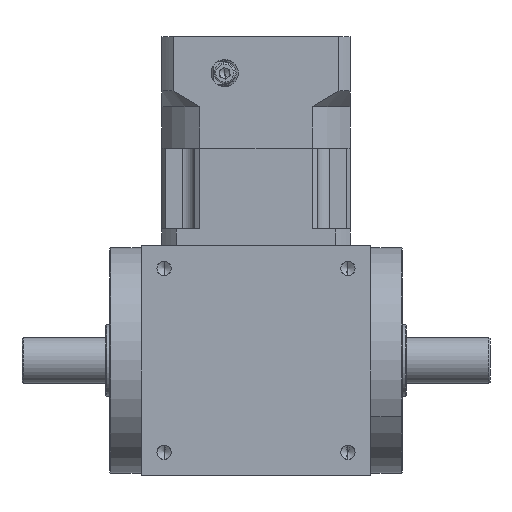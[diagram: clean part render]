
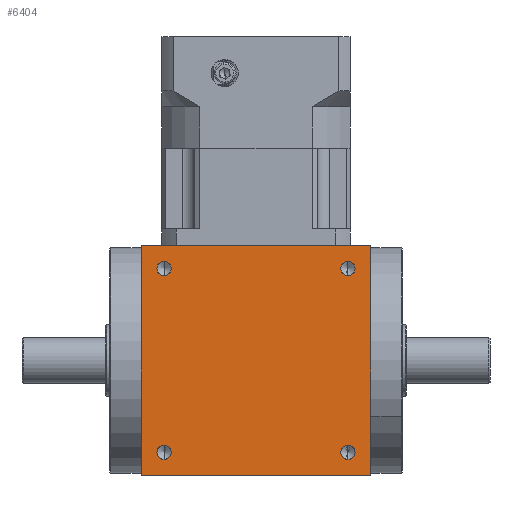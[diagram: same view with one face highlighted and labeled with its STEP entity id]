
A CAD part, front view. The second image highlights one B-rep face of the part: STEP entity #6404.
In plain terms, the highlighted planar face has unit normal (0, -1, 0).
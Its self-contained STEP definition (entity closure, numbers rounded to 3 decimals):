
#184 = VECTOR ( 'NONE', #20105, 1000. ) ;
#1017 = CARTESIAN_POINT ( 'NONE',  ( 59.28, -41.559, 40.6 ) ) ;
#1587 = LINE ( 'NONE', #10716, #184 ) ;
#1855 = EDGE_LOOP ( 'NONE', ( #6110, #11733 ) ) ;
#2417 = EDGE_CURVE ( 'NONE', #19862, #25311, #21625, .T. ) ;
#3126 = VERTEX_POINT ( 'NONE', #16223 ) ;
#3274 = LINE ( 'NONE', #22249, #6985 ) ;
#3735 = DIRECTION ( 'NONE',  ( 0., -1., 0. ) ) ;
#3842 = FACE_BOUND ( 'NONE', #18939, .T. ) ;
#3854 = AXIS2_PLACEMENT_3D ( 'NONE', #9052, #18609, #6689 ) ;
#3895 = AXIS2_PLACEMENT_3D ( 'NONE', #7970, #5754, #15328 ) ;
#3952 = CARTESIAN_POINT ( 'NONE',  ( 70.28, -41.559, -55. ) ) ;
#4013 = EDGE_LOOP ( 'NONE', ( #11917, #12935 ) ) ;
#5163 = CIRCLE ( 'NONE', #13689, 3.4 ) ;
#5366 = EDGE_LOOP ( 'NONE', ( #11863, #23521, #26902, #30319 ) ) ;
#5754 = DIRECTION ( 'NONE',  ( 0., -1., 0. ) ) ;
#5916 = EDGE_CURVE ( 'NONE', #27477, #18659, #3274, .T. ) ;
#6110 = ORIENTED_EDGE ( 'NONE', *, *, #10863, .F. ) ;
#6195 = DIRECTION ( 'NONE',  ( 0., 1., 0. ) ) ;
#6224 = ORIENTED_EDGE ( 'NONE', *, *, #27255, .F. ) ;
#6404 = ADVANCED_FACE ( 'NONE', ( #8411, #17970, #8263, #3842, #20622 ), #23139, .F. ) ;
#6557 = CARTESIAN_POINT ( 'NONE',  ( -28.72, -41.559, 44. ) ) ;
#6689 = DIRECTION ( 'NONE',  ( 0., 0., -1. ) ) ;
#6985 = VECTOR ( 'NONE', #26966, 1000. ) ;
#7970 = CARTESIAN_POINT ( 'NONE',  ( 59.28, -41.559, -44. ) ) ;
#8171 = DIRECTION ( 'NONE',  ( 1., 0., 0. ) ) ;
#8263 = FACE_BOUND ( 'NONE', #28560, .T. ) ;
#8411 = FACE_BOUND ( 'NONE', #1855, .T. ) ;
#9052 = CARTESIAN_POINT ( 'NONE',  ( -28.72, -41.559, -44. ) ) ;
#9403 = ORIENTED_EDGE ( 'NONE', *, *, #17396, .F. ) ;
#10425 = AXIS2_PLACEMENT_3D ( 'NONE', #6557, #21133, #18019 ) ;
#10581 = AXIS2_PLACEMENT_3D ( 'NONE', #17312, #28947, #26893 ) ;
#10716 = CARTESIAN_POINT ( 'NONE',  ( 70.28, -41.559, 55. ) ) ;
#10717 = CARTESIAN_POINT ( 'NONE',  ( -39.72, -41.559, -55. ) ) ;
#10863 = EDGE_CURVE ( 'NONE', #25311, #19862, #13396, .T. ) ;
#11349 = CARTESIAN_POINT ( 'NONE',  ( -39.72, -41.559, 55. ) ) ;
#11733 = ORIENTED_EDGE ( 'NONE', *, *, #2417, .F. ) ;
#11755 = CARTESIAN_POINT ( 'NONE',  ( -28.72, -41.559, -47.4 ) ) ;
#11863 = ORIENTED_EDGE ( 'NONE', *, *, #25176, .T. ) ;
#11917 = ORIENTED_EDGE ( 'NONE', *, *, #14281, .F. ) ;
#12285 = VECTOR ( 'NONE', #8171, 1000. ) ;
#12637 = CARTESIAN_POINT ( 'NONE',  ( 59.28, -41.559, 44. ) ) ;
#12927 = CARTESIAN_POINT ( 'NONE',  ( 59.28, -41.559, -40.6 ) ) ;
#12935 = ORIENTED_EDGE ( 'NONE', *, *, #14144, .F. ) ;
#12938 = AXIS2_PLACEMENT_3D ( 'NONE', #22583, #17869, #22425 ) ;
#13120 = EDGE_CURVE ( 'NONE', #15392, #24175, #23950, .T. ) ;
#13396 = CIRCLE ( 'NONE', #3854, 3.4 ) ;
#13498 = CARTESIAN_POINT ( 'NONE',  ( -39.72, -41.559, -55. ) ) ;
#13575 = DIRECTION ( 'NONE',  ( 1., 0., 0. ) ) ;
#13612 = CARTESIAN_POINT ( 'NONE',  ( -28.72, -41.559, 47.4 ) ) ;
#13689 = AXIS2_PLACEMENT_3D ( 'NONE', #25231, #3735, #25539 ) ;
#14144 = EDGE_CURVE ( 'NONE', #23397, #3126, #27975, .T. ) ;
#14162 = CIRCLE ( 'NONE', #23185, 3.4 ) ;
#14281 = EDGE_CURVE ( 'NONE', #3126, #23397, #21941, .T. ) ;
#14632 = AXIS2_PLACEMENT_3D ( 'NONE', #29092, #28468, #30956 ) ;
#15328 = DIRECTION ( 'NONE',  ( 0., 0., -1. ) ) ;
#15392 = VERTEX_POINT ( 'NONE', #21895 ) ;
#16049 = EDGE_CURVE ( 'NONE', #27477, #24775, #25576, .T. ) ;
#16223 = CARTESIAN_POINT ( 'NONE',  ( 59.28, -41.559, -47.4 ) ) ;
#16245 = ORIENTED_EDGE ( 'NONE', *, *, #13120, .F. ) ;
#17012 = DIRECTION ( 'NONE',  ( 0., 0., -1. ) ) ;
#17227 = CARTESIAN_POINT ( 'NONE',  ( 70.28, -41.559, 55. ) ) ;
#17312 = CARTESIAN_POINT ( 'NONE',  ( -28.72, -41.559, 44. ) ) ;
#17396 = EDGE_CURVE ( 'NONE', #25078, #29350, #14162, .T. ) ;
#17869 = DIRECTION ( 'NONE',  ( 0., -1., 0. ) ) ;
#17876 = LINE ( 'NONE', #13498, #12285 ) ;
#17888 = EDGE_CURVE ( 'NONE', #18659, #25851, #1587, .T. ) ;
#17970 = FACE_BOUND ( 'NONE', #4013, .T. ) ;
#18000 = CARTESIAN_POINT ( 'NONE',  ( -28.72, -41.559, -40.6 ) ) ;
#18019 = DIRECTION ( 'NONE',  ( 0., 0., -1. ) ) ;
#18121 = CARTESIAN_POINT ( 'NONE',  ( -39.72, -41.559, 55. ) ) ;
#18609 = DIRECTION ( 'NONE',  ( 0., -1., 0. ) ) ;
#18659 = VERTEX_POINT ( 'NONE', #17227 ) ;
#18939 = EDGE_LOOP ( 'NONE', ( #16245, #6224 ) ) ;
#19862 = VERTEX_POINT ( 'NONE', #18000 ) ;
#20105 = DIRECTION ( 'NONE',  ( 0., 0., -1. ) ) ;
#20108 = ORIENTED_EDGE ( 'NONE', *, *, #24134, .F. ) ;
#20622 = FACE_OUTER_BOUND ( 'NONE', #5366, .T. ) ;
#21133 = DIRECTION ( 'NONE',  ( 0., -1., 0. ) ) ;
#21625 = CIRCLE ( 'NONE', #14632, 3.4 ) ;
#21895 = CARTESIAN_POINT ( 'NONE',  ( -28.72, -41.559, 40.6 ) ) ;
#21941 = CIRCLE ( 'NONE', #3895, 3.4 ) ;
#22185 = DIRECTION ( 'NONE',  ( 0., -1., 0. ) ) ;
#22249 = CARTESIAN_POINT ( 'NONE',  ( -39.72, -41.559, 55. ) ) ;
#22425 = DIRECTION ( 'NONE',  ( 0., 0., -1. ) ) ;
#22583 = CARTESIAN_POINT ( 'NONE',  ( 59.28, -41.559, -44. ) ) ;
#23139 = PLANE ( 'NONE',  #24975 ) ;
#23185 = AXIS2_PLACEMENT_3D ( 'NONE', #12637, #22185, #17012 ) ;
#23397 = VERTEX_POINT ( 'NONE', #12927 ) ;
#23521 = ORIENTED_EDGE ( 'NONE', *, *, #17888, .F. ) ;
#23601 = CIRCLE ( 'NONE', #10581, 3.4 ) ;
#23680 = CARTESIAN_POINT ( 'NONE',  ( -39.72, -41.559, 55. ) ) ;
#23950 = CIRCLE ( 'NONE', #10425, 3.4 ) ;
#24055 = VECTOR ( 'NONE', #25428, 1000. ) ;
#24134 = EDGE_CURVE ( 'NONE', #29350, #25078, #5163, .T. ) ;
#24175 = VERTEX_POINT ( 'NONE', #13612 ) ;
#24775 = VERTEX_POINT ( 'NONE', #10717 ) ;
#24975 = AXIS2_PLACEMENT_3D ( 'NONE', #18121, #6195, #13575 ) ;
#25078 = VERTEX_POINT ( 'NONE', #28893 ) ;
#25176 = EDGE_CURVE ( 'NONE', #24775, #25851, #17876, .T. ) ;
#25231 = CARTESIAN_POINT ( 'NONE',  ( 59.28, -41.559, 44. ) ) ;
#25311 = VERTEX_POINT ( 'NONE', #11755 ) ;
#25428 = DIRECTION ( 'NONE',  ( 0., 0., -1. ) ) ;
#25539 = DIRECTION ( 'NONE',  ( 0., 0., -1. ) ) ;
#25576 = LINE ( 'NONE', #23680, #24055 ) ;
#25851 = VERTEX_POINT ( 'NONE', #3952 ) ;
#26893 = DIRECTION ( 'NONE',  ( 0., 0., -1. ) ) ;
#26902 = ORIENTED_EDGE ( 'NONE', *, *, #5916, .F. ) ;
#26966 = DIRECTION ( 'NONE',  ( 1., 0., 0. ) ) ;
#27255 = EDGE_CURVE ( 'NONE', #24175, #15392, #23601, .T. ) ;
#27477 = VERTEX_POINT ( 'NONE', #11349 ) ;
#27975 = CIRCLE ( 'NONE', #12938, 3.4 ) ;
#28468 = DIRECTION ( 'NONE',  ( 0., -1., 0. ) ) ;
#28560 = EDGE_LOOP ( 'NONE', ( #20108, #9403 ) ) ;
#28893 = CARTESIAN_POINT ( 'NONE',  ( 59.28, -41.559, 47.4 ) ) ;
#28947 = DIRECTION ( 'NONE',  ( 0., -1., 0. ) ) ;
#29092 = CARTESIAN_POINT ( 'NONE',  ( -28.72, -41.559, -44. ) ) ;
#29350 = VERTEX_POINT ( 'NONE', #1017 ) ;
#30319 = ORIENTED_EDGE ( 'NONE', *, *, #16049, .T. ) ;
#30956 = DIRECTION ( 'NONE',  ( 0., 0., -1. ) ) ;
